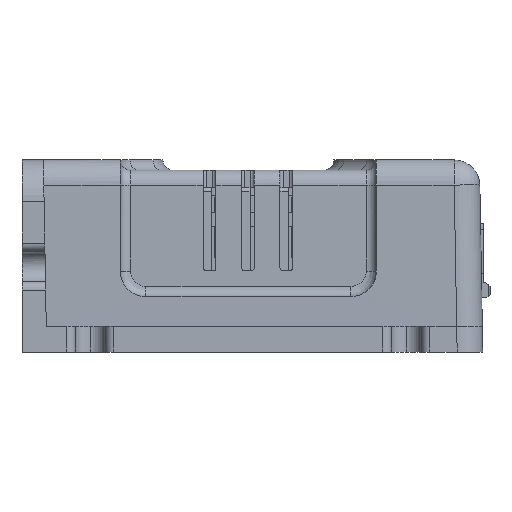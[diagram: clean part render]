
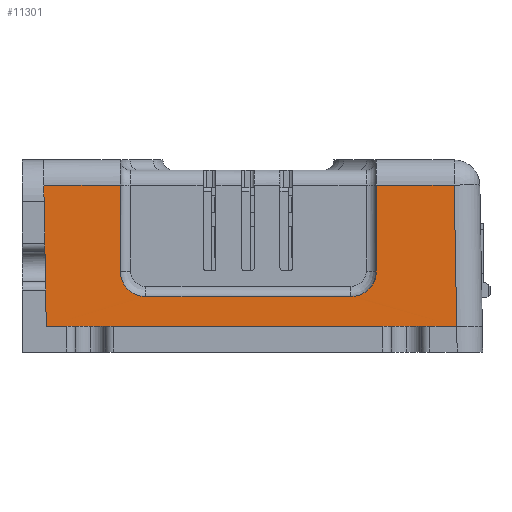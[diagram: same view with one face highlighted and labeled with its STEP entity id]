
A CAD part, left-side view. The second image highlights one B-rep face of the part: STEP entity #11301.
In plain terms, the highlighted planar face has unit normal (-1, 0, 0.018).
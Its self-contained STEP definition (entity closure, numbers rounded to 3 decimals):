
#1909 = EDGE_CURVE ( 'NONE', #7627, #19715, #64076, .T. ) ;
#2004 = CARTESIAN_POINT ( 'NONE',  ( -206.126, -38.621, 4.489 ) ) ;
#3083 = CARTESIAN_POINT ( 'NONE',  ( -205.924, -48.112, 16.052 ) ) ;
#3490 = ORIENTED_EDGE ( 'NONE', *, *, #53887, .F. ) ;
#3650 = EDGE_LOOP ( 'NONE', ( #41939, #25903, #3490, #57220, #47406, #15350, #101289, #60474, #76644, #10939 ) ) ;
#6605 = LINE ( 'NONE', #67065, #25332 ) ;
#6988 = EDGE_CURVE ( 'NONE', #8007, #13196, #57116, .T. ) ;
#7111 = DIRECTION ( 'NONE',  ( -0.017, 0., -1. ) ) ;
#7627 = VERTEX_POINT ( 'NONE', #75607 ) ;
#8007 = VERTEX_POINT ( 'NONE', #10763 ) ;
#8477 = CARTESIAN_POINT ( 'NONE',  ( -206.147, -36., 3. ) ) ;
#10062 = CARTESIAN_POINT ( 'NONE',  ( -206.107, -39., 5.607 ) ) ;
#10218 = EDGE_CURVE ( 'NONE', #86687, #88025, #72496, .T. ) ;
#10763 = CARTESIAN_POINT ( 'NONE',  ( -205.924, -0.051, 16.052 ) ) ;
#10939 = ORIENTED_EDGE ( 'NONE', *, *, #45178, .F. ) ;
#11092 = CARTESIAN_POINT ( 'NONE',  ( -206.107, -9., 5.607 ) ) ;
#11301 = ADVANCED_FACE ( 'NONE', ( #93892 ), #21300, .F. ) ;
#13196 = VERTEX_POINT ( 'NONE', #39394 ) ;
#14245 = VERTEX_POINT ( 'NONE', #62143 ) ;
#15350 = ORIENTED_EDGE ( 'NONE', *, *, #62863, .T. ) ;
#15904 = CARTESIAN_POINT ( 'NONE',  ( -206.213, 0., -0.5 ) ) ;
#18733 = CARTESIAN_POINT ( 'NONE',  ( -206.147, -12., 3. ) ) ;
#19031 = LINE ( 'NONE', #50551, #75089 ) ;
#19133 = CARTESIAN_POINT ( 'NONE',  ( -206.113, -9.078, 5.215 ) ) ;
#19715 = VERTEX_POINT ( 'NONE', #67922 ) ;
#21296 = CARTESIAN_POINT ( 'NONE',  ( -206.213, -48.4, -0.5 ) ) ;
#21300 = PLANE ( 'NONE',  #92984 ) ;
#22134 = CARTESIAN_POINT ( 'NONE',  ( -206.1, -39., 6. ) ) ;
#22436 = VECTOR ( 'NONE', #7111, 1000. ) ;
#25332 = VECTOR ( 'NONE', #91071, 1000. ) ;
#25767 = CARTESIAN_POINT ( 'NONE',  ( -206.147, -36., 3. ) ) ;
#25903 = ORIENTED_EDGE ( 'NONE', *, *, #10218, .F. ) ;
#26840 = CARTESIAN_POINT ( 'NONE',  ( -206.1, -9., 6. ) ) ;
#27180 = CARTESIAN_POINT ( 'NONE',  ( -206.132, -9.601, 4.157 ) ) ;
#27623 = VERTEX_POINT ( 'NONE', #8477 ) ;
#29333 = VECTOR ( 'NONE', #69025, 1000. ) ;
#29355 = CARTESIAN_POINT ( 'NONE',  ( -206.213, -25.7, -0.5 ) ) ;
#29384 = CARTESIAN_POINT ( 'NONE',  ( -206.213, -39., -0.5 ) ) ;
#30872 = CARTESIAN_POINT ( 'NONE',  ( -206.213, -9., -0.5 ) ) ;
#35157 = CARTESIAN_POINT ( 'NONE',  ( -206.145, -10.489, 3.379 ) ) ;
#35175 = DIRECTION ( 'NONE',  ( -0.017, -0.017, -1. ) ) ;
#39394 = CARTESIAN_POINT ( 'NONE',  ( -206.213, -0.34, -0.5 ) ) ;
#41784 = CARTESIAN_POINT ( 'NONE',  ( -206.145, -37.511, 3.379 ) ) ;
#41939 = ORIENTED_EDGE ( 'NONE', *, *, #96490, .F. ) ;
#42396 = VERTEX_POINT ( 'NONE', #21296 ) ;
#43152 = CARTESIAN_POINT ( 'NONE',  ( -206.152, -11.607, 3. ) ) ;
#43583 = LINE ( 'NONE', #30872, #22436 ) ;
#45178 = EDGE_CURVE ( 'NONE', #27623, #96692, #88941, .T. ) ;
#45316 = DIRECTION ( 'NONE',  ( -0.017, 0., -1. ) ) ;
#47406 = ORIENTED_EDGE ( 'NONE', *, *, #6988, .T. ) ;
#49639 = EDGE_CURVE ( 'NONE', #19715, #42396, #102928, .T. ) ;
#49754 = CARTESIAN_POINT ( 'NONE',  ( -206.132, -38.399, 4.156 ) ) ;
#50551 = CARTESIAN_POINT ( 'NONE',  ( -205.924, -25.7, 16.052 ) ) ;
#52087 = DIRECTION ( 'NONE',  ( -0.017, -0.017, -1. ) ) ;
#53887 = EDGE_CURVE ( 'NONE', #14245, #86687, #43583, .T. ) ;
#57116 = LINE ( 'NONE', #99677, #75764 ) ;
#57220 = ORIENTED_EDGE ( 'NONE', *, *, #102361, .F. ) ;
#57808 = CARTESIAN_POINT ( 'NONE',  ( -206.113, -38.922, 5.215 ) ) ;
#60474 = ORIENTED_EDGE ( 'NONE', *, *, #1909, .F. ) ;
#62143 = CARTESIAN_POINT ( 'NONE',  ( -205.924, -9., 16.052 ) ) ;
#62863 = EDGE_CURVE ( 'NONE', #13196, #42396, #84606, .T. ) ;
#63618 = DIRECTION ( 'NONE',  ( 0., -1., 0. ) ) ;
#64076 = LINE ( 'NONE', #99835, #85228 ) ;
#65782 = CARTESIAN_POINT ( 'NONE',  ( -206.1, -39., 6. ) ) ;
#65909 = VECTOR ( 'NONE', #63618, 1000. ) ;
#67065 = CARTESIAN_POINT ( 'NONE',  ( -206.152, -12., 3. ) ) ;
#67922 = CARTESIAN_POINT ( 'NONE',  ( -205.924, -48.112, 16.052 ) ) ;
#69025 = DIRECTION ( 'NONE',  ( 0.017, 0., 1. ) ) ;
#72496 = B_SPLINE_CURVE_WITH_KNOTS ( 'NONE', 3,
 ( #26840, #11092, #19133, #74850, #27180, #82833, #35157, #90823, #43152, #98788 ),
 .UNSPECIFIED., .F., .F.,
 ( 4, 2, 2, 2, 4 ),
 ( 0., 0.001, 0.002, 0.004, 0.005 ),
 .UNSPECIFIED. ) ;
#74583 = DIRECTION ( 'NONE',  ( 0., -1., 0. ) ) ;
#74850 = CARTESIAN_POINT ( 'NONE',  ( -206.126, -9.378, 4.49 ) ) ;
#75089 = VECTOR ( 'NONE', #74583, 1000. ) ;
#75607 = CARTESIAN_POINT ( 'NONE',  ( -205.924, -39., 16.052 ) ) ;
#75764 = VECTOR ( 'NONE', #52087, 1000. ) ;
#76644 = ORIENTED_EDGE ( 'NONE', *, *, #94794, .F. ) ;
#81450 = CARTESIAN_POINT ( 'NONE',  ( -206.152, -36.393, 3. ) ) ;
#82833 = CARTESIAN_POINT ( 'NONE',  ( -206.142, -10.156, 3.601 ) ) ;
#83898 = DIRECTION ( 'NONE',  ( 0., -1., 0. ) ) ;
#84606 = LINE ( 'NONE', #15904, #65909 ) ;
#85228 = VECTOR ( 'NONE', #83898, 1000. ) ;
#86687 = VERTEX_POINT ( 'NONE', #101369 ) ;
#88025 = VERTEX_POINT ( 'NONE', #18733 ) ;
#88941 = B_SPLINE_CURVE_WITH_KNOTS ( 'NONE', 3,
 ( #25767, #81450, #89416, #41784, #97391, #49754, #2004, #57808, #10062, #65782 ),
 .UNSPECIFIED., .F., .F.,
 ( 4, 2, 2, 2, 4 ),
 ( 0., 0.001, 0.002, 0.004, 0.005 ),
 .UNSPECIFIED. ) ;
#89416 = CARTESIAN_POINT ( 'NONE',  ( -206.151, -36.785, 3.078 ) ) ;
#90290 = LINE ( 'NONE', #29384, #29333 ) ;
#90823 = CARTESIAN_POINT ( 'NONE',  ( -206.151, -11.215, 3.078 ) ) ;
#91071 = DIRECTION ( 'NONE',  ( 0., -1., 0. ) ) ;
#92980 = DIRECTION ( 'NONE',  ( 1., 0., -0.017 ) ) ;
#92984 = AXIS2_PLACEMENT_3D ( 'NONE', #29355, #92980, #45316 ) ;
#93892 = FACE_OUTER_BOUND ( 'NONE', #3650, .T. ) ;
#94794 = EDGE_CURVE ( 'NONE', #96692, #7627, #90290, .T. ) ;
#96490 = EDGE_CURVE ( 'NONE', #88025, #27623, #6605, .T. ) ;
#96692 = VERTEX_POINT ( 'NONE', #22134 ) ;
#97391 = CARTESIAN_POINT ( 'NONE',  ( -206.142, -37.844, 3.601 ) ) ;
#98788 = CARTESIAN_POINT ( 'NONE',  ( -206.147, -12., 3. ) ) ;
#99677 = CARTESIAN_POINT ( 'NONE',  ( -205.924, -0.051, 16.052 ) ) ;
#99835 = CARTESIAN_POINT ( 'NONE',  ( -205.924, -25.7, 16.052 ) ) ;
#100420 = VECTOR ( 'NONE', #35175, 1000. ) ;
#101289 = ORIENTED_EDGE ( 'NONE', *, *, #49639, .F. ) ;
#101369 = CARTESIAN_POINT ( 'NONE',  ( -206.1, -9., 6. ) ) ;
#102361 = EDGE_CURVE ( 'NONE', #8007, #14245, #19031, .T. ) ;
#102928 = LINE ( 'NONE', #3083, #100420 ) ;
